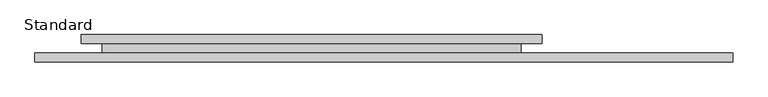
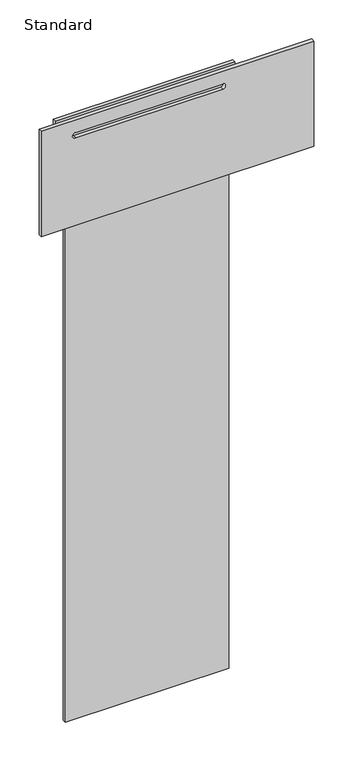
"""IFC4 building model written with IfcOpenShell, lengths in millimetres: furniture geometry, X_Partition-Compact Laminate-Duracube-Door : Standard."""

from ifc_helpers import new_model, si_unit, point, frame, frame_2d, origin, place, context, project, spatial, polyline, circle_curve, trimmed, segment, composite_curve, outline, extrude, source, transform, mapped, element, save


def standard_78c5e98c(model_context):
    return source(origin(), model_context, "Body", "SweptSolid", [
        extrude(outline(polyline([(2374.0, 648.2003264), (2374.0, -351.7996736), (1965.0, -351.7996736), (1965.0, 648.2003264), (2374.0, 648.2003264)]), holes=[composite_curve([segment(polyline([(2324.0, -225.2996736), (2324.0, 314.7003264)]), True, "CONTINUOUS"), segment(trimmed(circle_curve(frame_2d((2314.0, 314.7003264)), 10.0), [point((2324.0, 314.7003264))], [point((2304.0, 314.7003264))], True, "CARTESIAN"), True, "CONTINUOUS"), segment(polyline([(2304.0, 314.7003264), (2304.0, -225.2996736)]), True, "CONTINUOUS"), segment(trimmed(circle_curve(frame_2d((2314.0, -225.2996736)), 10.0), [point((2304.0, -225.2996736))], [point((2324.0, -225.2996736))], True, "CARTESIAN"), True, "CONTINUOUS")], self_intersect=False)]), frame((0.0, -26.0, 0.0), z_axis=(0.0, 1.0, 0.0), x_axis=(0.0, 0.0, 1.0)), (0.0, 0.0, 1.0), 13.0),
        extrude(outline(polyline([(374.7003264, 13.0), (374.7003264, 0.0), (-285.2996736, 0.0), (-285.2996736, 13.0), (374.7003264, 13.0)])), frame((0.0, 0.0, 2025.0), z_axis=(0.0, 0.0, 1.0), x_axis=(1.0, 0.0, 0.0)), (0.0, 0.0, 1.0), 349.0),
        extrude(outline(polyline([(344.7003264, 0.0), (344.7003264, -13.0), (-255.2996736, -13.0), (-255.2996736, 0.0), (344.7003264, 0.0)])), frame((0.0, 0.0, 40.0), z_axis=(0.0, 0.0, 1.0), x_axis=(1.0, 0.0, 0.0)), (0.0, 0.0, 1.0), 1945.0),
    ])


if __name__ == "__main__":
    model = new_model("IFC4")
    model_context = context("Model", 3, world=origin())
    ifc_project = project(units=[si_unit("LENGTHUNIT", "METRE", prefix="MILLI")], contexts=[model_context])
    site = spatial("IfcSite", under=ifc_project)
    building = spatial("IfcBuilding", under=site)
    placement = place(None, origin())
    standard_shape = standard_78c5e98c(model_context)
    element("IfcFurniture", 1, ObjectType="X_Partition-Compact Laminate-Duracube-Door : Standard", at=placement, inside=building, context=model_context, shape_type="MappedRepresentation", body=[
        mapped(standard_shape, transform((0.0, 0.0, 0.0), x_axis=(1.0, 0.0, 0.0), y_axis=(0.0, 1.0, 0.0), z_axis=(0.0, 0.0, 1.0))),
    ])
    save(model, "model.ifc")
